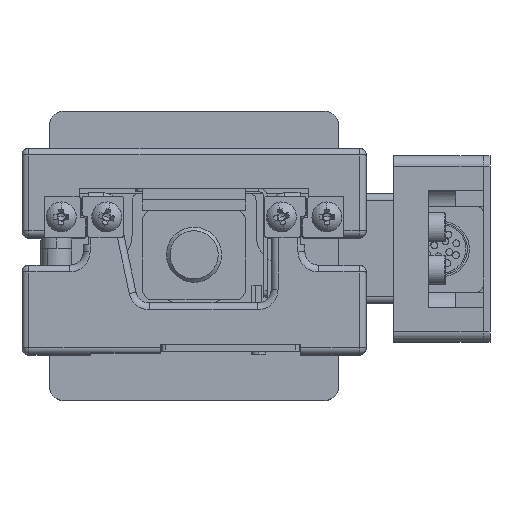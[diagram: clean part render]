
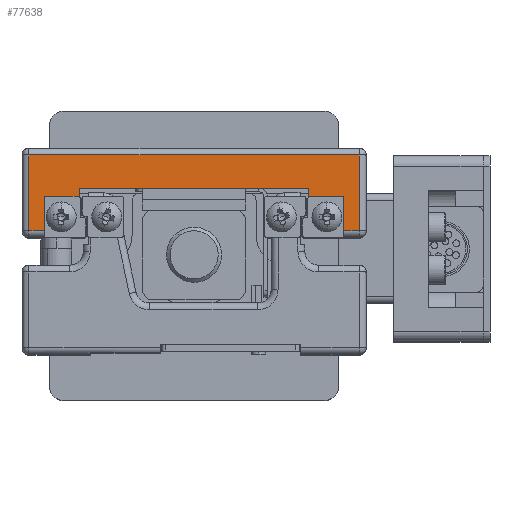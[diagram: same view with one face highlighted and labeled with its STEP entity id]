
A CAD part, top view. The second image highlights one B-rep face of the part: STEP entity #77638.
In plain terms, the highlighted planar face has unit normal (0, 0, 1).
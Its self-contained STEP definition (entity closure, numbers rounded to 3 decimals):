
#228 = DIRECTION ( 'NONE',  ( 1., 0., 0. ) ) ;
#1370 = VERTEX_POINT ( 'NONE', #27386 ) ;
#3728 = VECTOR ( 'NONE', #26309, 1000. ) ;
#5968 = CARTESIAN_POINT ( 'NONE',  ( -16.2, 24.2, 27.5 ) ) ;
#7007 = LINE ( 'NONE', #55893, #15308 ) ;
#8896 = ORIENTED_EDGE ( 'NONE', *, *, #51425, .T. ) ;
#8981 = DIRECTION ( 'NONE',  ( 0., 0., -1. ) ) ;
#9266 = EDGE_CURVE ( 'NONE', #119805, #76684, #95727, .T. ) ;
#12701 = EDGE_CURVE ( 'NONE', #129558, #146728, #31445, .T. ) ;
#13880 = CARTESIAN_POINT ( 'NONE',  ( 16.85, 23., 27.5 ) ) ;
#15308 = VECTOR ( 'NONE', #34208, 1000. ) ;
#16061 = DIRECTION ( 'NONE',  ( 1., 0., 0. ) ) ;
#18051 = VERTEX_POINT ( 'NONE', #151513 ) ;
#20195 = CARTESIAN_POINT ( 'NONE',  ( -16.85, 22.7, 27.5 ) ) ;
#20832 = CARTESIAN_POINT ( 'NONE',  ( -16.6, 24.2, 27.5 ) ) ;
#21869 = LINE ( 'NONE', #85131, #95255 ) ;
#26309 = DIRECTION ( 'NONE',  ( 0., 1., 0. ) ) ;
#26683 = LINE ( 'NONE', #29051, #27052 ) ;
#27052 = VECTOR ( 'NONE', #87579, 1000. ) ;
#27386 = CARTESIAN_POINT ( 'NONE',  ( 24., 18., 27.5 ) ) ;
#28739 = CARTESIAN_POINT ( 'NONE',  ( 16.85, 22.7, 27.5 ) ) ;
#28799 = LINE ( 'NONE', #150551, #35301 ) ;
#29051 = CARTESIAN_POINT ( 'NONE',  ( -21.75, 23., 27.5 ) ) ;
#29919 = CARTESIAN_POINT ( 'NONE',  ( 21.75, 23., 27.5 ) ) ;
#31445 = LINE ( 'NONE', #153965, #125497 ) ;
#34208 = DIRECTION ( 'NONE',  ( 0., -1., 0. ) ) ;
#34586 = PLANE ( 'NONE',  #104094 ) ;
#34839 = AXIS2_PLACEMENT_3D ( 'NONE', #88969, #137819, #16061 ) ;
#35301 = VECTOR ( 'NONE', #76894, 1000. ) ;
#35514 = ORIENTED_EDGE ( 'NONE', *, *, #82472, .F. ) ;
#36225 = VECTOR ( 'NONE', #59656, 1000. ) ;
#37631 = DIRECTION ( 'NONE',  ( 0., 0., -1. ) ) ;
#40819 = VERTEX_POINT ( 'NONE', #20832 ) ;
#40829 = CARTESIAN_POINT ( 'NONE',  ( 21.75, 22.7, 27.5 ) ) ;
#42861 = VERTEX_POINT ( 'NONE', #84373 ) ;
#44436 = DIRECTION ( 'NONE',  ( 1., 0., 0. ) ) ;
#48262 = EDGE_CURVE ( 'NONE', #40819, #76684, #56428, .T. ) ;
#50849 = EDGE_CURVE ( 'NONE', #1370, #129558, #70463, .T. ) ;
#51425 = EDGE_CURVE ( 'NONE', #18051, #92030, #153185, .T. ) ;
#51635 = DIRECTION ( 'NONE',  ( 0., 1., 0. ) ) ;
#52788 = CARTESIAN_POINT ( 'NONE',  ( -24., 29., 27.5 ) ) ;
#52807 = CIRCLE ( 'NONE', #34839, 0.3 ) ;
#52833 = EDGE_CURVE ( 'NONE', #118782, #136503, #26683, .T. ) ;
#52913 = ORIENTED_EDGE ( 'NONE', *, *, #147388, .F. ) ;
#53172 = EDGE_CURVE ( 'NONE', #92030, #118782, #52807, .T. ) ;
#55016 = ORIENTED_EDGE ( 'NONE', *, *, #52833, .T. ) ;
#55893 = CARTESIAN_POINT ( 'NONE',  ( -24., 33.3, 27.5 ) ) ;
#56428 = LINE ( 'NONE', #5968, #151615 ) ;
#57006 = ORIENTED_EDGE ( 'NONE', *, *, #94417, .F. ) ;
#59656 = DIRECTION ( 'NONE',  ( 0., 1., 0. ) ) ;
#60196 = DIRECTION ( 'NONE',  ( -1., 0., 0. ) ) ;
#60232 = DIRECTION ( 'NONE',  ( 0., 1., 0. ) ) ;
#63481 = VERTEX_POINT ( 'NONE', #13880 ) ;
#63744 = CARTESIAN_POINT ( 'NONE',  ( -16.6, 22.866, 27.5 ) ) ;
#63871 = EDGE_CURVE ( 'NONE', #146728, #134260, #7007, .T. ) ;
#63956 = ORIENTED_EDGE ( 'NONE', *, *, #9266, .F. ) ;
#66578 = EDGE_CURVE ( 'NONE', #119805, #63481, #156490, .T. ) ;
#67340 = ORIENTED_EDGE ( 'NONE', *, *, #63871, .T. ) ;
#67917 = EDGE_LOOP ( 'NONE', ( #8896, #130133, #55016, #120718, #57006, #70422, #63956, #80784, #35514, #112640, #52913, #106395, #157643, #92644, #67340, #114559 ) ) ;
#68212 = DIRECTION ( 'NONE',  ( 1., 0., 0. ) ) ;
#70099 = CARTESIAN_POINT ( 'NONE',  ( 16.6, 17., 27.5 ) ) ;
#70422 = ORIENTED_EDGE ( 'NONE', *, *, #48262, .T. ) ;
#70463 = LINE ( 'NONE', #97657, #3728 ) ;
#70638 = CARTESIAN_POINT ( 'NONE',  ( -25., 33.3, 27.5 ) ) ;
#72139 = AXIS2_PLACEMENT_3D ( 'NONE', #28739, #37631, #101671 ) ;
#73002 = FACE_OUTER_BOUND ( 'NONE', #67917, .T. ) ;
#74071 = CARTESIAN_POINT ( 'NONE',  ( 21.45, 22.7, 27.5 ) ) ;
#74220 = CARTESIAN_POINT ( 'NONE',  ( 24., 29., 27.5 ) ) ;
#75767 = VERTEX_POINT ( 'NONE', #63744 ) ;
#76684 = VERTEX_POINT ( 'NONE', #139145 ) ;
#76894 = DIRECTION ( 'NONE',  ( 0., -1., 0. ) ) ;
#77227 = LINE ( 'NONE', #29919, #95925 ) ;
#77638 = ADVANCED_FACE ( 'NONE', ( #73002 ), #34586, .F. ) ;
#78342 = CARTESIAN_POINT ( 'NONE',  ( -21.45, 23., 27.5 ) ) ;
#78356 = VERTEX_POINT ( 'NONE', #86799 ) ;
#78371 = CARTESIAN_POINT ( 'NONE',  ( 16.6, 22.866, 27.5 ) ) ;
#78665 = EDGE_CURVE ( 'NONE', #136503, #75767, #119614, .T. ) ;
#80784 = ORIENTED_EDGE ( 'NONE', *, *, #66578, .T. ) ;
#82472 = EDGE_CURVE ( 'NONE', #78356, #63481, #136851, .T. ) ;
#84373 = CARTESIAN_POINT ( 'NONE',  ( 21.75, 18., 27.5 ) ) ;
#85131 = CARTESIAN_POINT ( 'NONE',  ( -25., 18., 27.5 ) ) ;
#86421 = DIRECTION ( 'NONE',  ( -1., 0., 0. ) ) ;
#86799 = CARTESIAN_POINT ( 'NONE',  ( 21.45, 23., 27.5 ) ) ;
#87579 = DIRECTION ( 'NONE',  ( 1., 0., 0. ) ) ;
#87704 = VERTEX_POINT ( 'NONE', #40829 ) ;
#88252 = EDGE_CURVE ( 'NONE', #42861, #1370, #21869, .T. ) ;
#88969 = CARTESIAN_POINT ( 'NONE',  ( -21.45, 22.7, 27.5 ) ) ;
#90196 = EDGE_CURVE ( 'NONE', #78356, #87704, #146764, .T. ) ;
#92030 = VERTEX_POINT ( 'NONE', #131435 ) ;
#92644 = ORIENTED_EDGE ( 'NONE', *, *, #12701, .T. ) ;
#92903 = EDGE_CURVE ( 'NONE', #134260, #18051, #155457, .T. ) ;
#93055 = CARTESIAN_POINT ( 'NONE',  ( -25., 18., 27.5 ) ) ;
#93126 = DIRECTION ( 'NONE',  ( 1., 0., 0. ) ) ;
#93933 = CARTESIAN_POINT ( 'NONE',  ( -21.75, 23., 27.5 ) ) ;
#94417 = EDGE_CURVE ( 'NONE', #40819, #75767, #28799, .T. ) ;
#95255 = VECTOR ( 'NONE', #228, 1000. ) ;
#95727 = LINE ( 'NONE', #70099, #36225 ) ;
#95925 = VECTOR ( 'NONE', #51635, 1000. ) ;
#97657 = CARTESIAN_POINT ( 'NONE',  ( 24., 33.3, 27.5 ) ) ;
#99025 = CARTESIAN_POINT ( 'NONE',  ( -16.85, 23., 27.5 ) ) ;
#101671 = DIRECTION ( 'NONE',  ( -1., 0., 0. ) ) ;
#101699 = AXIS2_PLACEMENT_3D ( 'NONE', #20195, #8981, #93126 ) ;
#104094 = AXIS2_PLACEMENT_3D ( 'NONE', #70638, #119491, #60196 ) ;
#106395 = ORIENTED_EDGE ( 'NONE', *, *, #88252, .T. ) ;
#112640 = ORIENTED_EDGE ( 'NONE', *, *, #90196, .T. ) ;
#114559 = ORIENTED_EDGE ( 'NONE', *, *, #92903, .T. ) ;
#118782 = VERTEX_POINT ( 'NONE', #78342 ) ;
#119491 = DIRECTION ( 'NONE',  ( 0., 0., -1. ) ) ;
#119614 = CIRCLE ( 'NONE', #101699, 0.3 ) ;
#119805 = VERTEX_POINT ( 'NONE', #78371 ) ;
#120718 = ORIENTED_EDGE ( 'NONE', *, *, #78665, .T. ) ;
#123971 = CARTESIAN_POINT ( 'NONE',  ( -24., 18., 27.5 ) ) ;
#125497 = VECTOR ( 'NONE', #143534, 1000. ) ;
#129558 = VERTEX_POINT ( 'NONE', #74220 ) ;
#130133 = ORIENTED_EDGE ( 'NONE', *, *, #53172, .T. ) ;
#131435 = CARTESIAN_POINT ( 'NONE',  ( -21.75, 22.7, 27.5 ) ) ;
#133363 = DIRECTION ( 'NONE',  ( -1., 0., 0. ) ) ;
#134260 = VERTEX_POINT ( 'NONE', #123971 ) ;
#136503 = VERTEX_POINT ( 'NONE', #99025 ) ;
#136851 = LINE ( 'NONE', #148075, #138240 ) ;
#137402 = VECTOR ( 'NONE', #68212, 1000. ) ;
#137819 = DIRECTION ( 'NONE',  ( 0., 0., -1. ) ) ;
#138240 = VECTOR ( 'NONE', #86421, 1000. ) ;
#139145 = CARTESIAN_POINT ( 'NONE',  ( 16.6, 24.2, 27.5 ) ) ;
#143534 = DIRECTION ( 'NONE',  ( -1., 0., 0. ) ) ;
#145348 = DIRECTION ( 'NONE',  ( 0., 0., -1. ) ) ;
#146728 = VERTEX_POINT ( 'NONE', #52788 ) ;
#146764 = CIRCLE ( 'NONE', #149302, 0.3 ) ;
#147388 = EDGE_CURVE ( 'NONE', #42861, #87704, #77227, .T. ) ;
#148075 = CARTESIAN_POINT ( 'NONE',  ( 21.75, 23., 27.5 ) ) ;
#149302 = AXIS2_PLACEMENT_3D ( 'NONE', #74071, #145348, #133363 ) ;
#150551 = CARTESIAN_POINT ( 'NONE',  ( -16.6, 17., 27.5 ) ) ;
#151513 = CARTESIAN_POINT ( 'NONE',  ( -21.75, 18., 27.5 ) ) ;
#151615 = VECTOR ( 'NONE', #44436, 1000. ) ;
#153185 = LINE ( 'NONE', #93933, #157267 ) ;
#153965 = CARTESIAN_POINT ( 'NONE',  ( -25., 29., 27.5 ) ) ;
#155457 = LINE ( 'NONE', #93055, #137402 ) ;
#156490 = CIRCLE ( 'NONE', #72139, 0.3 ) ;
#157267 = VECTOR ( 'NONE', #60232, 1000. ) ;
#157643 = ORIENTED_EDGE ( 'NONE', *, *, #50849, .T. ) ;
